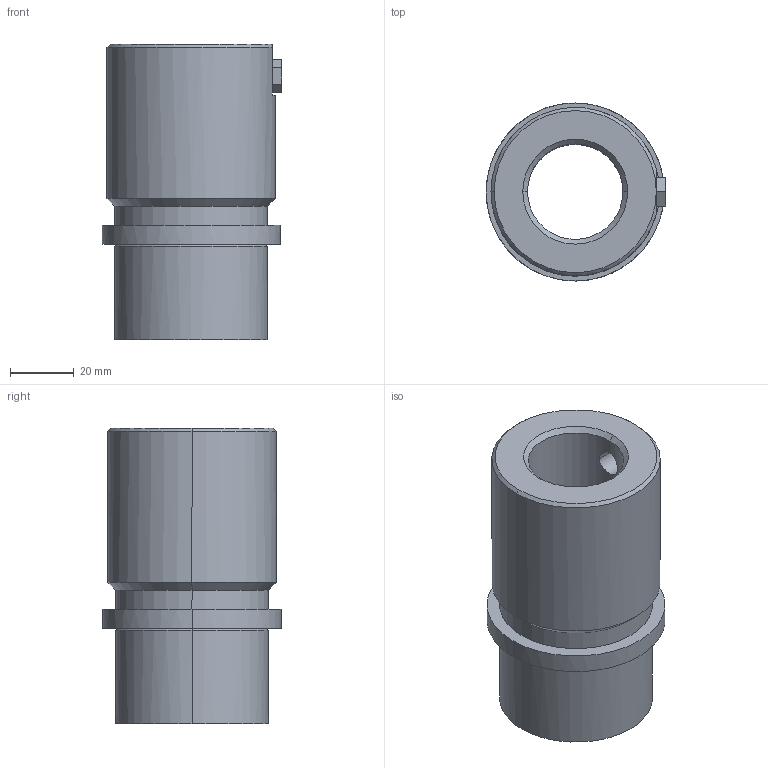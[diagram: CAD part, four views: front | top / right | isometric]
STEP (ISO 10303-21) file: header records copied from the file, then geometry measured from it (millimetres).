
FILE_DESCRIPTION(('CATIA V5 STEP Exchange'),'2;1');
FILE_NAME('C:\Users\Utente\Desktop\IO LAVORO\3D X SITO CF\X SITO\742\742-30.stp','2021-01-23T16:01:32+00:00',('none'),('none'),'CATIA Version 5 Release 20 GA (IN-10)','CATIA V5 STEP AP203','none');
FILE_SCHEMA(('CONFIG_CONTROL_DESIGN'));
Length unit declared in the file: millimetre
Products named in the file (1): 742-30
Assembly tree (1 placements, depth 2):
  742-30
    #58
Bounding box: 56.5 x 56 x 93 mm (x, y, z)
Volume: 125458.7 mm3; surface area: 28041.9 mm2
Topology: 1 solids, 1 shells, 38 faces, 89 edges, 56 vertices
Faces by surface type: plane 14, cylinder 12, cone 8, torus 4
Entity records: 1260 total; most frequent: CARTESIAN_POINT 352, ORIENTED_EDGE 178, DIRECTION 155, EDGE_CURVE 89, AXIS2_PLACEMENT_3D 74, VERTEX_POINT 56, EDGE_LOOP 43, VECTOR 41
